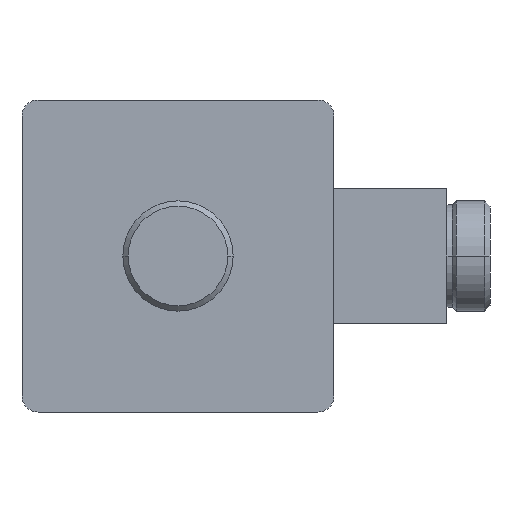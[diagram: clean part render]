
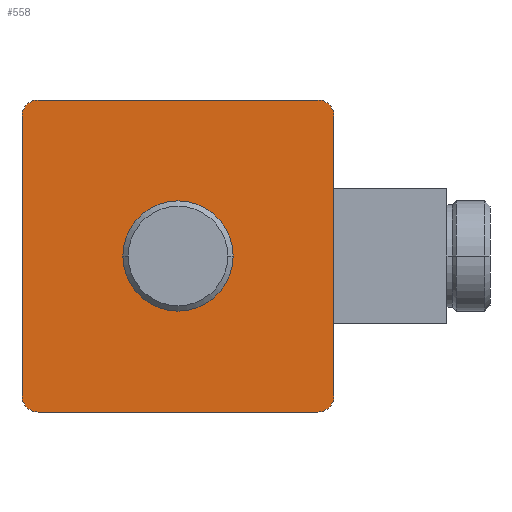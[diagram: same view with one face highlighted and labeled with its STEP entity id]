
A CAD part, left-side view. The second image highlights one B-rep face of the part: STEP entity #558.
In plain terms, the highlighted planar face has unit normal (-1, 0, 0).
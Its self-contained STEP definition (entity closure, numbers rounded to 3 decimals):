
#1=CARTESIAN_POINT('',(0.,26.,26.));
#2=DIRECTION('',(-1.,0.,0.));
#3=DIRECTION('',(0.,0.,1.));
#4=AXIS2_PLACEMENT_3D('',#1,#2,#3);
#6=DIRECTION('',(0.,-1.,0.));
#7=VECTOR('',#6,52.);
#8=CARTESIAN_POINT('',(0.,26.,29.));
#9=LINE('',#8,#7);
#10=CARTESIAN_POINT('',(0.,-26.,26.));
#11=DIRECTION('',(-1.,0.,0.));
#12=DIRECTION('',(0.,-1.,0.));
#13=AXIS2_PLACEMENT_3D('',#10,#11,#12);
#15=DIRECTION('',(0.,0.,-1.));
#16=VECTOR('',#15,52.);
#17=CARTESIAN_POINT('',(0.,-29.,26.));
#18=LINE('',#17,#16);
#19=CARTESIAN_POINT('',(0.,-26.,-26.));
#20=DIRECTION('',(-1.,0.,0.));
#21=DIRECTION('',(0.,0.,-1.));
#22=AXIS2_PLACEMENT_3D('',#19,#20,#21);
#24=DIRECTION('',(0.,1.,0.));
#25=VECTOR('',#24,52.);
#26=CARTESIAN_POINT('',(0.,-26.,-29.));
#27=LINE('',#26,#25);
#28=CARTESIAN_POINT('',(0.,26.,-26.));
#29=DIRECTION('',(-1.,0.,0.));
#30=DIRECTION('',(0.,1.,0.));
#31=AXIS2_PLACEMENT_3D('',#28,#29,#30);
#33=DIRECTION('',(0.,0.,1.));
#34=VECTOR('',#33,52.);
#35=CARTESIAN_POINT('',(0.,29.,-26.));
#36=LINE('',#35,#34);
#37=CARTESIAN_POINT('',(0.,0.,0.));
#38=DIRECTION('',(1.,0.,0.));
#39=DIRECTION('',(0.,1.,0.));
#40=AXIS2_PLACEMENT_3D('',#37,#38,#39);
#42=CARTESIAN_POINT('',(0.,0.,0.));
#43=DIRECTION('',(1.,0.,0.));
#44=DIRECTION('',(0.,-1.,0.));
#45=AXIS2_PLACEMENT_3D('',#42,#43,#44);
#417=CARTESIAN_POINT('',(0.,26.,29.));
#418=CARTESIAN_POINT('',(0.,29.,26.));
#419=VERTEX_POINT('',#417);
#420=VERTEX_POINT('',#418);
#421=CARTESIAN_POINT('',(0.,-29.,26.));
#422=CARTESIAN_POINT('',(0.,-26.,29.));
#423=VERTEX_POINT('',#421);
#424=VERTEX_POINT('',#422);
#425=CARTESIAN_POINT('',(0.,29.,-26.));
#426=CARTESIAN_POINT('',(0.,26.,-29.));
#427=VERTEX_POINT('',#425);
#428=VERTEX_POINT('',#426);
#429=CARTESIAN_POINT('',(0.,-26.,-29.));
#430=CARTESIAN_POINT('',(0.,-29.,-26.));
#431=VERTEX_POINT('',#429);
#432=VERTEX_POINT('',#430);
#497=CARTESIAN_POINT('',(0.,9.,0.));
#498=CARTESIAN_POINT('',(0.,-9.,0.));
#499=VERTEX_POINT('',#497);
#500=VERTEX_POINT('',#498);
#529=CARTESIAN_POINT('',(0.,0.,0.));
#530=DIRECTION('',(1.,0.,0.));
#531=DIRECTION('',(0.,0.,-1.));
#532=AXIS2_PLACEMENT_3D('',#529,#530,#531);
#533=PLANE('',#532);
#535=ORIENTED_EDGE('',*,*,#534,.F.);
#537=ORIENTED_EDGE('',*,*,#536,.T.);
#539=ORIENTED_EDGE('',*,*,#538,.F.);
#541=ORIENTED_EDGE('',*,*,#540,.T.);
#543=ORIENTED_EDGE('',*,*,#542,.F.);
#545=ORIENTED_EDGE('',*,*,#544,.T.);
#547=ORIENTED_EDGE('',*,*,#546,.F.);
#549=ORIENTED_EDGE('',*,*,#548,.T.);
#550=EDGE_LOOP('',(#535,#537,#539,#541,#543,#545,#547,#549));
#551=FACE_OUTER_BOUND('',#550,.F.);
#553=ORIENTED_EDGE('',*,*,#552,.F.);
#555=ORIENTED_EDGE('',*,*,#554,.F.);
#556=EDGE_LOOP('',(#553,#555));
#557=FACE_BOUND('',#556,.F.);
#558=ADVANCED_FACE('',(#551,#557),#533,.F.);
#5=CIRCLE('',#4,3.);
#14=CIRCLE('',#13,3.);
#23=CIRCLE('',#22,3.);
#32=CIRCLE('',#31,3.);
#41=CIRCLE('',#40,9.);
#46=CIRCLE('',#45,9.);
#534=EDGE_CURVE('',#419,#420,#5,.T.);
#536=EDGE_CURVE('',#419,#424,#9,.T.);
#538=EDGE_CURVE('',#423,#424,#14,.T.);
#540=EDGE_CURVE('',#423,#432,#18,.T.);
#542=EDGE_CURVE('',#431,#432,#23,.T.);
#544=EDGE_CURVE('',#431,#428,#27,.T.);
#546=EDGE_CURVE('',#427,#428,#32,.T.);
#548=EDGE_CURVE('',#427,#420,#36,.T.);
#552=EDGE_CURVE('',#499,#500,#41,.T.);
#554=EDGE_CURVE('',#500,#499,#46,.T.);
